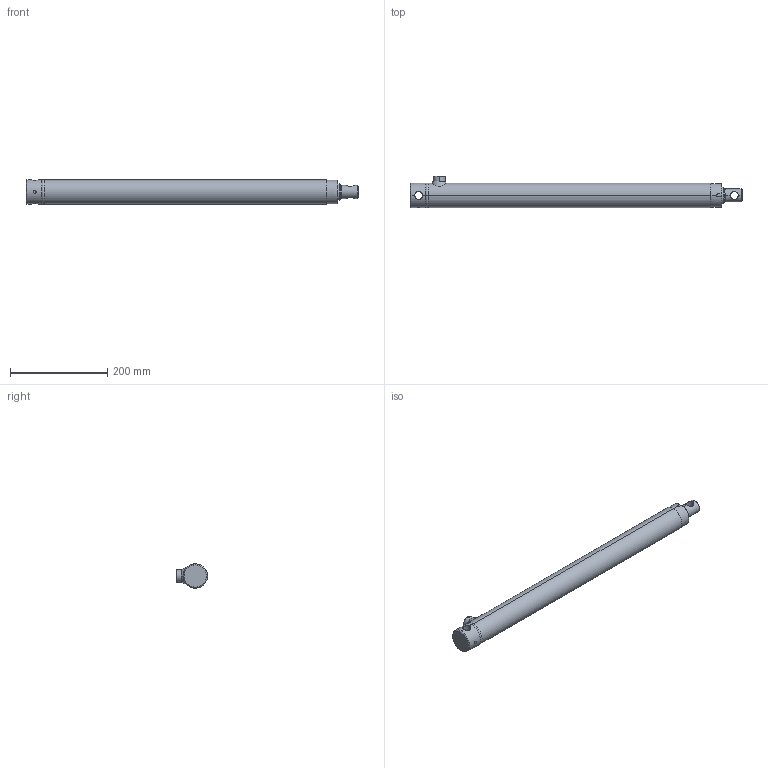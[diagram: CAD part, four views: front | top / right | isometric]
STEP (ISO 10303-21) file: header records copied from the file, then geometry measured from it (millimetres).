
FILE_DESCRIPTION (( 'STEP AP203' ), '1' );
FILE_NAME ('630.5.STEP', '2014-01-17T06:41:00', ( '' ), ( '' ), 'SwSTEP 2.0', 'SolidWorks 2013', '' );
FILE_SCHEMA (( 'CONFIG_CONTROL_DESIGN' ));
Length unit declared in the file: millimetre
Products named in the file (12): JONC_620_670_JC30; SOUD ALIM 630; FOND 701_POUR VSE630; SOUD FOND 630; TIGE630_C500; TUBE630_C500; 630.5; D630.._D630; AL38_AL38; JOINT RACLEUR_JR30; JOINT TIGE_JT30; JOINT TORIQUE_JORO36,3
Assembly tree (11 placements, depth 2):
  630.5
    FOND 701_POUR VSE630
    TUBE630_C500
    TIGE630_C500
    D630.._D630
    AL38_AL38
    JOINT RACLEUR_JR30
    JOINT TIGE_JT30
    JOINT TORIQUE_JORO36,3
    JONC_620_670_JC30
    SOUD ALIM 630
    SOUD FOND 630
Bounding box: 684 x 65.17 x 51.28 mm (x, y, z)
Volume: 965489.1 mm3; surface area: 268477.6 mm2
Topology: 11 solids, 11 shells, 159 faces, 337 edges, 200 vertices
Faces by surface type: cylinder 60, cone 45, plane 34, torus 16, bspline 4
Entity records: 6471 total; most frequent: CARTESIAN_POINT 1688, DIRECTION 819, ORIENTED_EDGE 674, AXIS2_PLACEMENT_3D 349, EDGE_CURVE 337, VERTEX_POINT 200, EDGE_LOOP 183, CIRCLE 180
